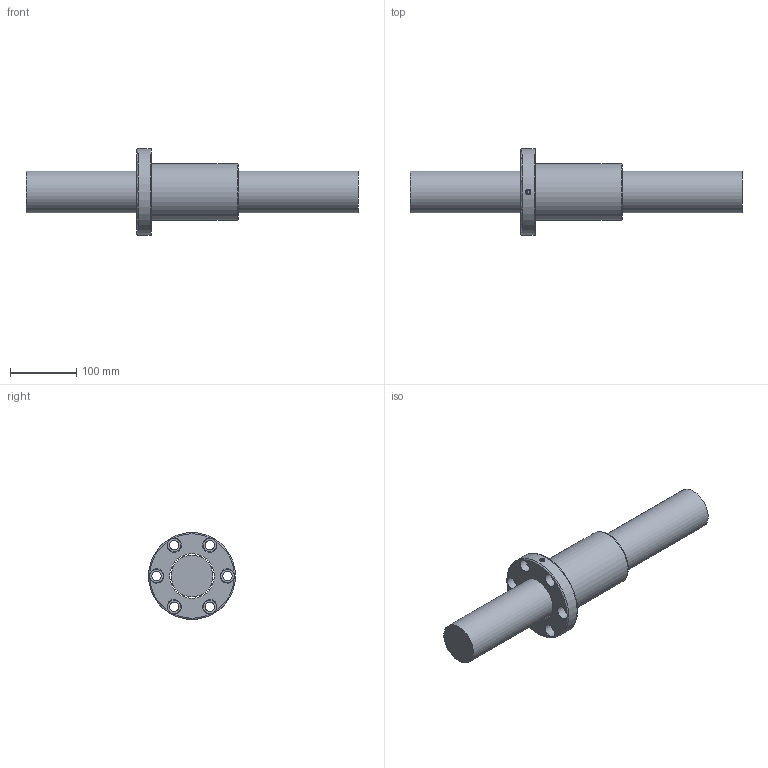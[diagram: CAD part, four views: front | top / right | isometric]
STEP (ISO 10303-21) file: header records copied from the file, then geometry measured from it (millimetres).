
FILE_DESCRIPTION (( 'STEP AP203' ), '1' );
FILE_NAME ('OFI06310N-4.step', '2024-05-17T03:24:04', ( '' ), ( '' ), 'SwSTEP 2.0', 'SolidWorks 2022', '' );
FILE_SCHEMA (( 'CONFIG_CONTROL_DESIGN' ));
Length unit declared in the file: millimetre
Products named in the file (1): OFI06310N-4
Bounding box: 500 x 131 x 131 mm (x, y, z)
Volume: 2022836 mm3; surface area: 206093.4 mm2
Topology: 2 solids, 2 shells, 57 faces, 145 edges, 93 vertices
Faces by surface type: cylinder 24, cone 13, plane 12, bspline 5, torus 3
Full cylindrical faces by diameter (mm): 4 x1, 7 x6, 14 x6, 20 x6, 63 x1, 67.1 x1, 85 x1, 131 x1
Entity records: 3157 total; most frequent: CARTESIAN_POINT 2106, DIRECTION 206, ORIENTED_EDGE 148, EDGE_LOOP 102, AXIS2_PLACEMENT_3D 101, EDGE_CURVE 74, FACE_OUTER_BOUND 72, VERTEX_POINT 64
